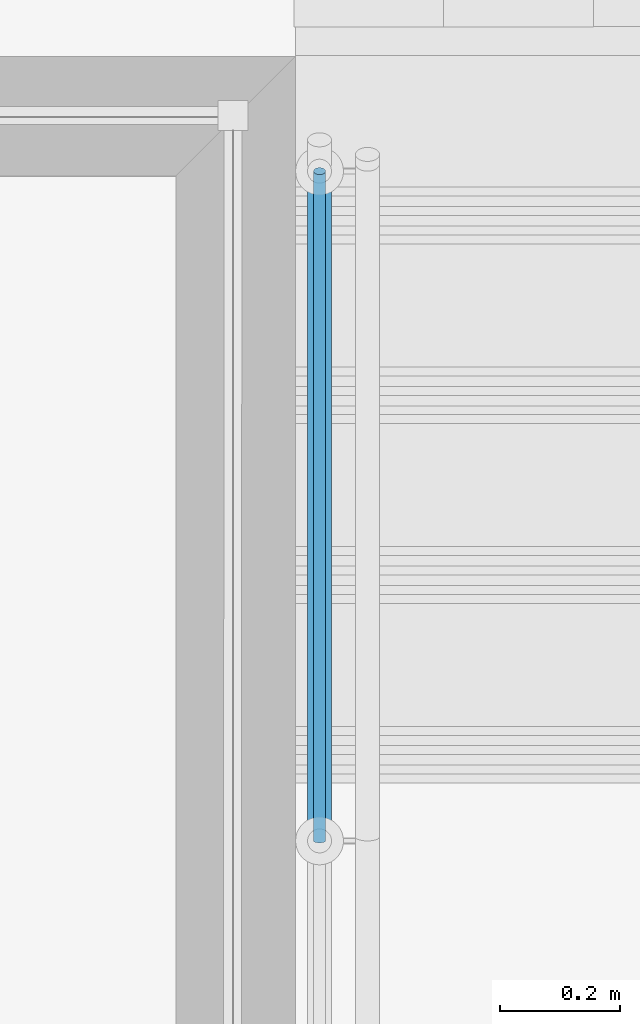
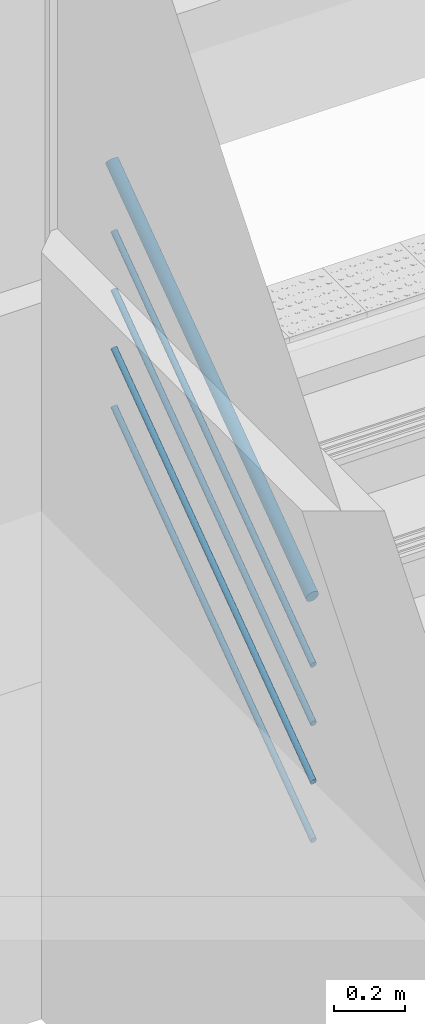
# One storey, part 62 of 237: 6 building element parts, 1 element without a shape of its own.
"""IFC2X3 building model written with IfcOpenShell, lengths in millimetres."""

from ifc_helpers import new_model, entity, si_unit, converted_unit, derived_unit, money_unit, direction, frame, origin_with_axes, place, context, subcontext, project, spatial, faceted_brep, material, type_object, element, aggregate, save


model = new_model("IFC2X3")

# Units and contexts
model_context = context("Model", 3, precision=0.01, world=origin_with_axes(), true_north=direction((0.0, 1.0)))
body_context = subcontext(model_context, "Body", "Model", "MODEL_VIEW")
ifc_project = project(units=[si_unit("LENGTHUNIT", "METRE", prefix="MILLI"), si_unit("AREAUNIT", "SQUARE_METRE"), si_unit("VOLUMEUNIT", "CUBIC_METRE"), converted_unit("PLANEANGLEUNIT", "DEGREE", entity("IfcPlaneAngleMeasure", 0.0174532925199), si_unit("PLANEANGLEUNIT", "RADIAN"), dimensions=[0, 0, 0, 0, 0, 0, 0]), money_unit("USD"), converted_unit("TIMEUNIT", "Year", entity("IfcTimeMeasure", 31556926.0), si_unit("TIMEUNIT", "SECOND"), dimensions=[0, 0, 1, 0, 0, 0, 0]), si_unit("MASSUNIT", "GRAM", prefix="KILO"), si_unit("THERMODYNAMICTEMPERATUREUNIT", "DEGREE_CELSIUS"), si_unit("LUMINOUSINTENSITYUNIT", "LUMEN"), si_unit("ENERGYUNIT", "JOULE", prefix="MEGA"), derived_unit("THERMALCONDUCTANCEUNIT", [(si_unit("POWERUNIT", "WATT"), 1), (si_unit("LENGTHUNIT", "METRE"), -1), (si_unit("THERMODYNAMICTEMPERATUREUNIT", "KELVIN"), -1)]), derived_unit("SPECIFICHEATCAPACITYUNIT", [(si_unit("ENERGYUNIT", "JOULE"), 1), (si_unit("MASSUNIT", "GRAM", prefix="KILO"), -1), (si_unit("THERMODYNAMICTEMPERATUREUNIT", "KELVIN"), -1)]), derived_unit("MASSDENSITYUNIT", [(si_unit("MASSUNIT", "GRAM", prefix="KILO"), 1), (si_unit("VOLUMEUNIT", "CUBIC_METRE"), -1)])], contexts=[model_context])

# Site, building, storey
site_placement = place(None, origin_with_axes())
site = spatial("IfcSite", under=ifc_project, at=site_placement, Name="Local", CompositionType="ELEMENT")
building_placement = place(site_placement, origin_with_axes())
building = spatial("IfcBuilding", under=site, at=building_placement, Name="Construção", CompositionType="ELEMENT")
storey_placement = place(building_placement, origin_with_axes())
storey = spatial("IfcBuildingStorey", under=building, at=storey_placement, Name="Pavimento Térreo", CompositionType="ELEMENT", Elevation=0.0)

# Railing, building element parts
railing_type = type_object("IfcRailingType", Name="Tipo de Guarda-Corpo", PredefinedType="NOTDEFINED")
railing_placement = place(storey_placement, frame((77071.0413397, 23732.4143775, -4865.39060156), z_axis=(0.0, 0.0, 1.0), x_axis=(1.0, 0.0, 0.0)))
railing = element("IfcRailing", 1, at=railing_placement, inside=storey, type_object=railing_type, Name="Guarda-Corpo - 001", PredefinedType="NOTDEFINED")
ifc_material = material(Name="Aço - Inoxidável")
building_element_part_1_placement = place(railing_placement, origin_with_axes())
building_element_part_1 = element("IfcBuildingElementPart", 2, at=building_element_part_1_placement, material=ifc_material, Name="Aço - Inoxidável", context=body_context, shape_type="Brep", body=[
    faceted_brep([(1757.91815812, -254.940737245, 2359.93461638), (1757.61431318, -256.971998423, 2362.75161015), (1757.61431319, -1379.29586583, 1553.47296355), (1757.91815813, -1378.17431672, 1550.0), (1757.61431318, -252.909476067, 2357.11762262), (1756.71201054, -250.939933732, 2354.38622179), (1755.2386662, -249.091953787, 2351.82340611), (1753.23904699, -247.421686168, 2349.50704546), (1750.77391032, -245.979881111, 2347.50752127), (1747.91815812, -244.810347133, 2345.88558808), (1744.75856099, -243.948619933, 2344.69052751), (1741.39112168, -243.420882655, 2343.95865086), (1737.91815812, -243.243170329, 2343.71219584), (1734.44519457, -243.420882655, 2343.95865086), (1731.07775526, -243.948619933, 2344.69052751), (1727.91815812, -244.810347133, 2345.88558808), (1725.06240593, -245.979881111, 2347.50752127), (1722.59726926, -247.421686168, 2349.50704546), (1720.59765005, -249.091953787, 2351.82340611), (1719.12430571, -250.939933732, 2354.38622179), (1718.22200306, -252.909476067, 2357.11762262), (1717.91815812, -254.940737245, 2359.93461638), (1718.22200306, -256.971998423, 2362.75161015), (1719.12430571, -258.941540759, 2365.48301098), (1720.59765005, -260.789520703, 2368.04582666), (1722.59726926, -262.459788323, 2370.36218731), (1725.06240593, -263.901593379, 2372.36171149), (1727.91815812, -265.071127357, 2373.98364468), (1731.07775526, -265.932854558, 2375.17870526), (1734.44519457, -266.460591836, 2375.91058191), (1737.91815812, -266.638304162, 2376.15703693), (1741.39112168, -266.460591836, 2375.91058191), (1744.75856099, -265.932854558, 2375.17870526), (1747.91815812, -265.071127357, 2373.98364468), (1750.77391032, -263.901593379, 2372.36171149), (1753.23904699, -262.459788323, 2370.36218731), (1755.2386662, -260.789520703, 2368.04582666), (1756.71201054, -258.941540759, 2365.48301098), (1756.71201054, -1380.38333724, 1556.84040287), (1755.2386662, -1381.40368868, 1560.0), (1753.23904699, -1382.32591728, 1562.85575219), (1750.77391032, -1383.1220016, 1565.32088886), (1747.91815813, -1383.76775302, 1567.32050808), (1744.75856099, -1384.24355071, 1568.79385242), (1741.39112168, -1384.53493779, 1569.69615506), (1737.91815812, -1384.63306062, 1570.0), (1734.44519457, -1384.53493779, 1569.69615506), (1731.07775526, -1384.2435507, 1568.79385242), (1727.91815813, -1383.76775301, 1567.32050808), (1725.06240593, -1383.12200159, 1565.32088886), (1722.59726926, -1382.32591726, 1562.85575219), (1720.59765005, -1381.40368866, 1560.0), (1719.12430571, -1380.38333722, 1556.84040287), (1718.22200307, -1379.29586581, 1553.47296355), (1717.91815813, -1378.1743167, 1550.0), (1718.22200307, -1377.05276758, 1546.52703645), (1719.12430571, -1375.96529618, 1543.15959713), (1720.59765005, -1374.94494474, 1540.0), (1722.59726927, -1374.02271613, 1537.14424781), (1725.06240594, -1373.22663181, 1534.67911114), (1727.91815813, -1372.58088039, 1532.67949192), (1731.07775527, -1372.10508271, 1531.20614758), (1734.44519458, -1371.81369562, 1530.30384494), (1737.91815813, -1371.71557279, 1530.0), (1741.39112169, -1371.81369563, 1530.30384494), (1744.758561, -1372.10508271, 1531.20614758), (1747.91815813, -1372.58088041, 1532.67949192), (1750.77391033, -1373.22663183, 1534.67911114), (1753.23904699, -1374.02271615, 1537.14424781), (1755.23866621, -1374.94494476, 1540.0), (1756.71201055, -1375.9652962, 1543.15959713), (1757.61431319, -1377.05276761, 1546.52703645)], [[[0, 1, 2, 3]], [[0, 4, 5, 6, 7, 8, 9, 10, 11, 12, 13, 14, 15, 16, 17, 18, 19, 20, 21, 22, 23, 24, 25, 26, 27, 28, 29, 30, 31, 32, 33, 34, 35, 36, 37, 1]], [[1, 37, 38, 2]], [[3, 2, 38, 39, 40, 41, 42, 43, 44, 45, 46, 47, 48, 49, 50, 51, 52, 53, 54, 55, 56, 57, 58, 59, 60, 61, 62, 63, 64, 65, 66, 67, 68, 69, 70, 71]], [[4, 0, 3, 71]], [[5, 4, 71, 70]], [[6, 5, 70, 69]], [[7, 6, 69, 68]], [[8, 7, 68, 67]], [[9, 8, 67, 66]], [[10, 9, 66, 65]], [[11, 10, 65, 64]], [[12, 11, 64, 63]], [[13, 12, 63, 62]], [[14, 13, 62, 61]], [[15, 14, 61, 60]], [[16, 15, 60, 59]], [[17, 16, 59, 58]], [[18, 17, 58, 57]], [[19, 18, 57, 56]], [[20, 19, 56, 55]], [[21, 20, 55, 54]], [[22, 21, 54, 53]], [[23, 22, 53, 52]], [[24, 23, 52, 51]], [[25, 24, 51, 50]], [[26, 25, 50, 49]], [[27, 26, 49, 48]], [[28, 27, 48, 47]], [[29, 28, 47, 46]], [[30, 29, 46, 45]], [[31, 30, 45, 44]], [[32, 31, 44, 43]], [[33, 32, 43, 42]], [[34, 33, 42, 41]], [[35, 34, 41, 40]], [[36, 35, 40, 39]], [[37, 36, 39, 38]]]),
])
building_element_part_2_placement = place(railing_placement, origin_with_axes())
building_element_part_2 = element("IfcBuildingElementPart", 3, at=building_element_part_2_placement, material=ifc_material, Name="Aço - Inoxidável", context=body_context, shape_type="Brep", body=[
    faceted_brep([(1747.91815812, -266.638304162, 1526.15703693), (1747.76623565, -267.653934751, 1527.56553381), (1747.76623565, -1385.19383519, 721.736481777), (1747.91815812, -1384.63306063, 720.0), (1747.76623565, -265.622673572, 1524.74854004), (1747.31508433, -264.637902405, 1523.38283963), (1746.57841216, -263.713912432, 1522.10143179), (1745.57860256, -262.878778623, 1520.94325146), (1744.34603422, -262.157876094, 1519.94348937), (1742.91815812, -261.573109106, 1519.13252278), (1741.33835956, -261.142245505, 1518.53499249), (1739.6546399, -260.878376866, 1518.16905417), (1737.91815812, -260.789520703, 1518.04582666), (1736.18167635, -260.878376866, 1518.16905417), (1734.49795669, -261.142245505, 1518.53499249), (1732.91815812, -261.573109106, 1519.13252278), (1731.49028203, -262.157876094, 1519.94348937), (1730.25771369, -262.878778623, 1520.94325146), (1729.25790409, -263.713912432, 1522.10143179), (1728.52123192, -264.637902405, 1523.38283963), (1728.07008059, -265.622673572, 1524.74854004), (1727.91815812, -266.638304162, 1526.15703693), (1728.07008059, -267.653934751, 1527.56553381), (1728.52123192, -268.638705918, 1528.93123423), (1729.25790409, -269.562695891, 1530.21264206), (1730.25771369, -270.3978297, 1531.37082239), (1731.49028203, -271.118732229, 1532.37058448), (1732.91815812, -271.703499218, 1533.18155108), (1734.49795669, -272.134362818, 1533.77908136), (1736.18167635, -272.398231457, 1534.14501969), (1737.91815812, -272.48708762, 1534.2682472), (1739.6546399, -272.398231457, 1534.14501969), (1741.33835956, -272.134362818, 1533.77908136), (1742.91815812, -271.703499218, 1533.18155108), (1744.34603422, -271.118732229, 1532.37058448), (1745.57860256, -270.3978297, 1531.37082239), (1746.57841216, -269.562695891, 1530.21264206), (1747.31508433, -268.638705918, 1528.93123423), (1747.31508433, -1385.73757089, 723.420201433), (1746.57841216, -1386.24774661, 725.0), (1745.57860255, -1386.70886091, 726.427876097), (1744.34603422, -1387.10690307, 727.660444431), (1742.91815812, -1387.42977878, 728.660254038), (1741.33835956, -1387.66767763, 729.396926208), (1739.6546399, -1387.81337117, 729.84807753), (1737.91815812, -1387.86243258, 730.0), (1736.18167635, -1387.81337117, 729.84807753), (1734.49795669, -1387.66767762, 729.396926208), (1732.91815812, -1387.42977878, 728.660254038), (1731.49028203, -1387.10690306, 727.660444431), (1730.25771369, -1386.7088609, 726.427876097), (1729.25790409, -1386.2477466, 725.0), (1728.52123192, -1385.73757088, 723.420201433), (1728.07008059, -1385.19383517, 721.736481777), (1727.91815812, -1384.63306062, 720.0), (1728.07008059, -1384.07228606, 718.263518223), (1728.52123192, -1383.52855036, 716.579798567), (1729.25790409, -1383.01837464, 715.0), (1730.25771369, -1382.55726034, 713.572123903), (1731.49028203, -1382.15921818, 712.339555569), (1732.91815813, -1381.83634247, 711.339745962), (1734.49795669, -1381.59844362, 710.603073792), (1736.18167635, -1381.45275008, 710.15192247), (1737.91815813, -1381.40368867, 710.0), (1739.6546399, -1381.45275008, 710.15192247), (1741.33835956, -1381.59844363, 710.603073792), (1742.91815813, -1381.83634247, 711.339745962), (1744.34603422, -1382.15921818, 712.339555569), (1745.57860256, -1382.55726035, 713.572123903), (1746.57841216, -1383.01837465, 715.0), (1747.31508433, -1383.52855037, 716.579798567), (1747.76623566, -1384.07228607, 718.263518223)], [[[0, 1, 2, 3]], [[0, 4, 5, 6, 7, 8, 9, 10, 11, 12, 13, 14, 15, 16, 17, 18, 19, 20, 21, 22, 23, 24, 25, 26, 27, 28, 29, 30, 31, 32, 33, 34, 35, 36, 37, 1]], [[1, 37, 38, 2]], [[3, 2, 38, 39, 40, 41, 42, 43, 44, 45, 46, 47, 48, 49, 50, 51, 52, 53, 54, 55, 56, 57, 58, 59, 60, 61, 62, 63, 64, 65, 66, 67, 68, 69, 70, 71]], [[4, 0, 3, 71]], [[5, 4, 71, 70]], [[6, 5, 70, 69]], [[7, 6, 69, 68]], [[8, 7, 68, 67]], [[9, 8, 67, 66]], [[10, 9, 66, 65]], [[11, 10, 65, 64]], [[12, 11, 64, 63]], [[13, 12, 63, 62]], [[14, 13, 62, 61]], [[15, 14, 61, 60]], [[16, 15, 60, 59]], [[17, 16, 59, 58]], [[18, 17, 58, 57]], [[19, 18, 57, 56]], [[20, 19, 56, 55]], [[21, 20, 55, 54]], [[22, 21, 54, 53]], [[23, 22, 53, 52]], [[24, 23, 52, 51]], [[25, 24, 51, 50]], [[26, 25, 50, 49]], [[27, 26, 49, 48]], [[28, 27, 48, 47]], [[29, 28, 47, 46]], [[30, 29, 46, 45]], [[31, 30, 45, 44]], [[32, 31, 44, 43]], [[33, 32, 43, 42]], [[34, 33, 42, 41]], [[35, 34, 41, 40]], [[36, 35, 40, 39]], [[37, 36, 39, 38]]]),
])
building_element_part_3_placement = place(railing_placement, origin_with_axes())
building_element_part_3 = element("IfcBuildingElementPart", 4, at=building_element_part_3_placement, material=ifc_material, Name="Aço - Inoxidável", context=body_context, shape_type="Brep", body=[
    faceted_brep([(1747.91815812, -266.638304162, 1726.15703693), (1747.76623565, -267.653934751, 1727.56553381), (1747.76623565, -1385.19383519, 921.736481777), (1747.91815812, -1384.63306063, 920.0), (1747.76623565, -265.622673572, 1724.74854004), (1747.31508433, -264.637902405, 1723.38283963), (1746.57841216, -263.713912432, 1722.10143179), (1745.57860256, -262.878778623, 1720.94325146), (1744.34603422, -262.157876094, 1719.94348937), (1742.91815812, -261.573109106, 1719.13252278), (1741.33835956, -261.142245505, 1718.53499249), (1739.6546399, -260.878376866, 1718.16905417), (1737.91815812, -260.789520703, 1718.04582666), (1736.18167635, -260.878376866, 1718.16905417), (1734.49795669, -261.142245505, 1718.53499249), (1732.91815812, -261.573109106, 1719.13252278), (1731.49028203, -262.157876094, 1719.94348937), (1730.25771369, -262.878778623, 1720.94325146), (1729.25790409, -263.713912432, 1722.10143179), (1728.52123192, -264.637902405, 1723.38283963), (1728.07008059, -265.622673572, 1724.74854004), (1727.91815812, -266.638304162, 1726.15703693), (1728.07008059, -267.653934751, 1727.56553381), (1728.52123192, -268.638705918, 1728.93123423), (1729.25790409, -269.562695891, 1730.21264206), (1730.25771369, -270.3978297, 1731.37082239), (1731.49028203, -271.118732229, 1732.37058448), (1732.91815812, -271.703499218, 1733.18155108), (1734.49795669, -272.134362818, 1733.77908136), (1736.18167635, -272.398231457, 1734.14501969), (1737.91815812, -272.48708762, 1734.2682472), (1739.6546399, -272.398231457, 1734.14501969), (1741.33835956, -272.134362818, 1733.77908136), (1742.91815812, -271.703499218, 1733.18155108), (1744.34603422, -271.118732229, 1732.37058448), (1745.57860256, -270.3978297, 1731.37082239), (1746.57841216, -269.562695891, 1730.21264206), (1747.31508433, -268.638705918, 1728.93123423), (1747.31508433, -1385.73757089, 923.420201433), (1746.57841216, -1386.24774661, 925.0), (1745.57860255, -1386.70886091, 926.427876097), (1744.34603422, -1387.10690307, 927.660444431), (1742.91815812, -1387.42977878, 928.660254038), (1741.33835956, -1387.66767763, 929.396926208), (1739.6546399, -1387.81337117, 929.84807753), (1737.91815812, -1387.86243258, 930.0), (1736.18167635, -1387.81337117, 929.84807753), (1734.49795669, -1387.66767762, 929.396926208), (1732.91815812, -1387.42977878, 928.660254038), (1731.49028203, -1387.10690306, 927.660444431), (1730.25771369, -1386.7088609, 926.427876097), (1729.25790409, -1386.2477466, 925.0), (1728.52123192, -1385.73757088, 923.420201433), (1728.07008059, -1385.19383517, 921.736481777), (1727.91815812, -1384.63306062, 920.0), (1728.07008059, -1384.07228606, 918.263518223), (1728.52123192, -1383.52855036, 916.579798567), (1729.25790409, -1383.01837464, 915.0), (1730.25771369, -1382.55726034, 913.572123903), (1731.49028203, -1382.15921818, 912.339555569), (1732.91815813, -1381.83634247, 911.339745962), (1734.49795669, -1381.59844362, 910.603073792), (1736.18167635, -1381.45275008, 910.15192247), (1737.91815813, -1381.40368867, 910.0), (1739.6546399, -1381.45275008, 910.15192247), (1741.33835956, -1381.59844363, 910.603073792), (1742.91815813, -1381.83634247, 911.339745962), (1744.34603422, -1382.15921818, 912.339555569), (1745.57860256, -1382.55726035, 913.572123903), (1746.57841216, -1383.01837465, 915.0), (1747.31508433, -1383.52855037, 916.579798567), (1747.76623566, -1384.07228607, 918.263518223)], [[[0, 1, 2, 3]], [[0, 4, 5, 6, 7, 8, 9, 10, 11, 12, 13, 14, 15, 16, 17, 18, 19, 20, 21, 22, 23, 24, 25, 26, 27, 28, 29, 30, 31, 32, 33, 34, 35, 36, 37, 1]], [[1, 37, 38, 2]], [[3, 2, 38, 39, 40, 41, 42, 43, 44, 45, 46, 47, 48, 49, 50, 51, 52, 53, 54, 55, 56, 57, 58, 59, 60, 61, 62, 63, 64, 65, 66, 67, 68, 69, 70, 71]], [[4, 0, 3, 71]], [[5, 4, 71, 70]], [[6, 5, 70, 69]], [[7, 6, 69, 68]], [[8, 7, 68, 67]], [[9, 8, 67, 66]], [[10, 9, 66, 65]], [[11, 10, 65, 64]], [[12, 11, 64, 63]], [[13, 12, 63, 62]], [[14, 13, 62, 61]], [[15, 14, 61, 60]], [[16, 15, 60, 59]], [[17, 16, 59, 58]], [[18, 17, 58, 57]], [[19, 18, 57, 56]], [[20, 19, 56, 55]], [[21, 20, 55, 54]], [[22, 21, 54, 53]], [[23, 22, 53, 52]], [[24, 23, 52, 51]], [[25, 24, 51, 50]], [[26, 25, 50, 49]], [[27, 26, 49, 48]], [[28, 27, 48, 47]], [[29, 28, 47, 46]], [[30, 29, 46, 45]], [[31, 30, 45, 44]], [[32, 31, 44, 43]], [[33, 32, 43, 42]], [[34, 33, 42, 41]], [[35, 34, 41, 40]], [[36, 35, 40, 39]], [[37, 36, 39, 38]]]),
])
building_element_part_4_placement = place(railing_placement, origin_with_axes())
building_element_part_4 = element("IfcBuildingElementPart", 5, at=building_element_part_4_placement, material=ifc_material, Name="Aço - Inoxidável", context=body_context, shape_type="Brep", body=[
    faceted_brep([(1747.91815812, -266.638304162, 1726.15703693), (1747.76623565, -267.653934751, 1727.56553381), (1747.76623565, -1385.19383519, 921.736481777), (1747.91815812, -1384.63306063, 920.0), (1747.76623565, -265.622673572, 1724.74854004), (1747.31508433, -264.637902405, 1723.38283963), (1746.57841216, -263.713912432, 1722.10143179), (1745.57860256, -262.878778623, 1720.94325146), (1744.34603422, -262.157876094, 1719.94348937), (1742.91815812, -261.573109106, 1719.13252278), (1741.33835956, -261.142245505, 1718.53499249), (1739.6546399, -260.878376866, 1718.16905417), (1737.91815812, -260.789520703, 1718.04582666), (1736.18167635, -260.878376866, 1718.16905417), (1734.49795669, -261.142245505, 1718.53499249), (1732.91815812, -261.573109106, 1719.13252278), (1731.49028203, -262.157876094, 1719.94348937), (1730.25771369, -262.878778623, 1720.94325146), (1729.25790409, -263.713912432, 1722.10143179), (1728.52123192, -264.637902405, 1723.38283963), (1728.07008059, -265.622673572, 1724.74854004), (1727.91815812, -266.638304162, 1726.15703693), (1728.07008059, -267.653934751, 1727.56553381), (1728.52123192, -268.638705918, 1728.93123423), (1729.25790409, -269.562695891, 1730.21264206), (1730.25771369, -270.3978297, 1731.37082239), (1731.49028203, -271.118732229, 1732.37058448), (1732.91815812, -271.703499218, 1733.18155108), (1734.49795669, -272.134362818, 1733.77908136), (1736.18167635, -272.398231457, 1734.14501969), (1737.91815812, -272.48708762, 1734.2682472), (1739.6546399, -272.398231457, 1734.14501969), (1741.33835956, -272.134362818, 1733.77908136), (1742.91815812, -271.703499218, 1733.18155108), (1744.34603422, -271.118732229, 1732.37058448), (1745.57860256, -270.3978297, 1731.37082239), (1746.57841216, -269.562695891, 1730.21264206), (1747.31508433, -268.638705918, 1728.93123423), (1747.31508433, -1385.73757089, 923.420201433), (1746.57841216, -1386.24774661, 925.0), (1745.57860255, -1386.70886091, 926.427876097), (1744.34603422, -1387.10690307, 927.660444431), (1742.91815812, -1387.42977878, 928.660254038), (1741.33835956, -1387.66767763, 929.396926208), (1739.6546399, -1387.81337117, 929.84807753), (1737.91815812, -1387.86243258, 930.0), (1736.18167635, -1387.81337117, 929.84807753), (1734.49795669, -1387.66767762, 929.396926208), (1732.91815812, -1387.42977878, 928.660254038), (1731.49028203, -1387.10690306, 927.660444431), (1730.25771369, -1386.7088609, 926.427876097), (1729.25790409, -1386.2477466, 925.0), (1728.52123192, -1385.73757088, 923.420201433), (1728.07008059, -1385.19383517, 921.736481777), (1727.91815812, -1384.63306062, 920.0), (1728.07008059, -1384.07228606, 918.263518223), (1728.52123192, -1383.52855036, 916.579798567), (1729.25790409, -1383.01837464, 915.0), (1730.25771369, -1382.55726034, 913.572123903), (1731.49028203, -1382.15921818, 912.339555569), (1732.91815813, -1381.83634247, 911.339745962), (1734.49795669, -1381.59844362, 910.603073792), (1736.18167635, -1381.45275008, 910.15192247), (1737.91815813, -1381.40368867, 910.0), (1739.6546399, -1381.45275008, 910.15192247), (1741.33835956, -1381.59844363, 910.603073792), (1742.91815813, -1381.83634247, 911.339745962), (1744.34603422, -1382.15921818, 912.339555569), (1745.57860256, -1382.55726035, 913.572123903), (1746.57841216, -1383.01837465, 915.0), (1747.31508433, -1383.52855037, 916.579798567), (1747.76623566, -1384.07228607, 918.263518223)], [[[0, 1, 2, 3]], [[0, 4, 5, 6, 7, 8, 9, 10, 11, 12, 13, 14, 15, 16, 17, 18, 19, 20, 21, 22, 23, 24, 25, 26, 27, 28, 29, 30, 31, 32, 33, 34, 35, 36, 37, 1]], [[1, 37, 38, 2]], [[3, 2, 38, 39, 40, 41, 42, 43, 44, 45, 46, 47, 48, 49, 50, 51, 52, 53, 54, 55, 56, 57, 58, 59, 60, 61, 62, 63, 64, 65, 66, 67, 68, 69, 70, 71]], [[4, 0, 3, 71]], [[5, 4, 71, 70]], [[6, 5, 70, 69]], [[7, 6, 69, 68]], [[8, 7, 68, 67]], [[9, 8, 67, 66]], [[10, 9, 66, 65]], [[11, 10, 65, 64]], [[12, 11, 64, 63]], [[13, 12, 63, 62]], [[14, 13, 62, 61]], [[15, 14, 61, 60]], [[16, 15, 60, 59]], [[17, 16, 59, 58]], [[18, 17, 58, 57]], [[19, 18, 57, 56]], [[20, 19, 56, 55]], [[21, 20, 55, 54]], [[22, 21, 54, 53]], [[23, 22, 53, 52]], [[24, 23, 52, 51]], [[25, 24, 51, 50]], [[26, 25, 50, 49]], [[27, 26, 49, 48]], [[28, 27, 48, 47]], [[29, 28, 47, 46]], [[30, 29, 46, 45]], [[31, 30, 45, 44]], [[32, 31, 44, 43]], [[33, 32, 43, 42]], [[34, 33, 42, 41]], [[35, 34, 41, 40]], [[36, 35, 40, 39]], [[37, 36, 39, 38]]]),
])
building_element_part_5_placement = place(railing_placement, origin_with_axes())
building_element_part_5 = element("IfcBuildingElementPart", 6, at=building_element_part_5_placement, material=ifc_material, Name="Aço - Inoxidável", context=body_context, shape_type="Brep", body=[
    faceted_brep([(1747.91815812, -266.638304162, 1926.15703693), (1747.76623565, -267.653934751, 1927.56553381), (1747.76623565, -1385.19383519, 1121.73648178), (1747.91815812, -1384.63306063, 1120.0), (1747.76623565, -265.622673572, 1924.74854004), (1747.31508433, -264.637902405, 1923.38283963), (1746.57841216, -263.713912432, 1922.10143179), (1745.57860256, -262.878778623, 1920.94325146), (1744.34603422, -262.157876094, 1919.94348937), (1742.91815812, -261.573109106, 1919.13252278), (1741.33835956, -261.142245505, 1918.53499249), (1739.6546399, -260.878376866, 1918.16905417), (1737.91815812, -260.789520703, 1918.04582666), (1736.18167635, -260.878376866, 1918.16905417), (1734.49795669, -261.142245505, 1918.53499249), (1732.91815812, -261.573109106, 1919.13252278), (1731.49028203, -262.157876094, 1919.94348937), (1730.25771369, -262.878778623, 1920.94325146), (1729.25790409, -263.713912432, 1922.10143179), (1728.52123192, -264.637902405, 1923.38283963), (1728.07008059, -265.622673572, 1924.74854004), (1727.91815812, -266.638304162, 1926.15703693), (1728.07008059, -267.653934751, 1927.56553381), (1728.52123192, -268.638705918, 1928.93123423), (1729.25790409, -269.562695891, 1930.21264206), (1730.25771369, -270.3978297, 1931.37082239), (1731.49028203, -271.118732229, 1932.37058448), (1732.91815812, -271.703499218, 1933.18155108), (1734.49795669, -272.134362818, 1933.77908136), (1736.18167635, -272.398231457, 1934.14501969), (1737.91815812, -272.48708762, 1934.2682472), (1739.6546399, -272.398231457, 1934.14501969), (1741.33835956, -272.134362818, 1933.77908136), (1742.91815812, -271.703499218, 1933.18155108), (1744.34603422, -271.118732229, 1932.37058448), (1745.57860256, -270.3978297, 1931.37082239), (1746.57841216, -269.562695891, 1930.21264206), (1747.31508433, -268.638705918, 1928.93123423), (1747.31508433, -1385.73757089, 1123.42020143), (1746.57841216, -1386.24774661, 1125.0), (1745.57860255, -1386.70886091, 1126.4278761), (1744.34603422, -1387.10690307, 1127.66044443), (1742.91815812, -1387.42977878, 1128.66025404), (1741.33835956, -1387.66767763, 1129.39692621), (1739.6546399, -1387.81337117, 1129.84807753), (1737.91815812, -1387.86243258, 1130.0), (1736.18167635, -1387.81337117, 1129.84807753), (1734.49795669, -1387.66767762, 1129.39692621), (1732.91815812, -1387.42977878, 1128.66025404), (1731.49028203, -1387.10690306, 1127.66044443), (1730.25771369, -1386.7088609, 1126.4278761), (1729.25790409, -1386.2477466, 1125.0), (1728.52123192, -1385.73757088, 1123.42020143), (1728.07008059, -1385.19383517, 1121.73648178), (1727.91815812, -1384.63306062, 1120.0), (1728.07008059, -1384.07228606, 1118.26351822), (1728.52123192, -1383.52855036, 1116.57979857), (1729.25790409, -1383.01837464, 1115.0), (1730.25771369, -1382.55726034, 1113.5721239), (1731.49028203, -1382.15921818, 1112.33955557), (1732.91815813, -1381.83634247, 1111.33974596), (1734.49795669, -1381.59844362, 1110.60307379), (1736.18167635, -1381.45275008, 1110.15192247), (1737.91815813, -1381.40368867, 1110.0), (1739.6546399, -1381.45275008, 1110.15192247), (1741.33835956, -1381.59844363, 1110.60307379), (1742.91815813, -1381.83634247, 1111.33974596), (1744.34603422, -1382.15921818, 1112.33955557), (1745.57860256, -1382.55726035, 1113.5721239), (1746.57841216, -1383.01837465, 1115.0), (1747.31508433, -1383.52855037, 1116.57979857), (1747.76623566, -1384.07228607, 1118.26351822)], [[[0, 1, 2, 3]], [[0, 4, 5, 6, 7, 8, 9, 10, 11, 12, 13, 14, 15, 16, 17, 18, 19, 20, 21, 22, 23, 24, 25, 26, 27, 28, 29, 30, 31, 32, 33, 34, 35, 36, 37, 1]], [[1, 37, 38, 2]], [[3, 2, 38, 39, 40, 41, 42, 43, 44, 45, 46, 47, 48, 49, 50, 51, 52, 53, 54, 55, 56, 57, 58, 59, 60, 61, 62, 63, 64, 65, 66, 67, 68, 69, 70, 71]], [[4, 0, 3, 71]], [[5, 4, 71, 70]], [[6, 5, 70, 69]], [[7, 6, 69, 68]], [[8, 7, 68, 67]], [[9, 8, 67, 66]], [[10, 9, 66, 65]], [[11, 10, 65, 64]], [[12, 11, 64, 63]], [[13, 12, 63, 62]], [[14, 13, 62, 61]], [[15, 14, 61, 60]], [[16, 15, 60, 59]], [[17, 16, 59, 58]], [[18, 17, 58, 57]], [[19, 18, 57, 56]], [[20, 19, 56, 55]], [[21, 20, 55, 54]], [[22, 21, 54, 53]], [[23, 22, 53, 52]], [[24, 23, 52, 51]], [[25, 24, 51, 50]], [[26, 25, 50, 49]], [[27, 26, 49, 48]], [[28, 27, 48, 47]], [[29, 28, 47, 46]], [[30, 29, 46, 45]], [[31, 30, 45, 44]], [[32, 31, 44, 43]], [[33, 32, 43, 42]], [[34, 33, 42, 41]], [[35, 34, 41, 40]], [[36, 35, 40, 39]], [[37, 36, 39, 38]]]),
])
building_element_part_6_placement = place(railing_placement, origin_with_axes())
building_element_part_6 = element("IfcBuildingElementPart", 7, at=building_element_part_6_placement, material=ifc_material, Name="Aço - Inoxidável", context=body_context, shape_type="Brep", body=[
    faceted_brep([(1747.91815812, -266.638304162, 2126.15703693), (1747.76623565, -267.653934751, 2127.56553381), (1747.76623565, -1385.19383519, 1321.73648178), (1747.91815812, -1384.63306063, 1320.0), (1747.76623565, -265.622673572, 2124.74854004), (1747.31508433, -264.637902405, 2123.38283963), (1746.57841216, -263.713912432, 2122.10143179), (1745.57860256, -262.878778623, 2120.94325146), (1744.34603422, -262.157876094, 2119.94348937), (1742.91815812, -261.573109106, 2119.13252278), (1741.33835956, -261.142245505, 2118.53499249), (1739.6546399, -260.878376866, 2118.16905417), (1737.91815812, -260.789520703, 2118.04582666), (1736.18167635, -260.878376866, 2118.16905417), (1734.49795669, -261.142245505, 2118.53499249), (1732.91815812, -261.573109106, 2119.13252278), (1731.49028203, -262.157876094, 2119.94348937), (1730.25771369, -262.878778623, 2120.94325146), (1729.25790409, -263.713912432, 2122.10143179), (1728.52123192, -264.637902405, 2123.38283963), (1728.07008059, -265.622673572, 2124.74854004), (1727.91815812, -266.638304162, 2126.15703693), (1728.07008059, -267.653934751, 2127.56553381), (1728.52123192, -268.638705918, 2128.93123423), (1729.25790409, -269.562695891, 2130.21264206), (1730.25771369, -270.3978297, 2131.37082239), (1731.49028203, -271.118732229, 2132.37058448), (1732.91815812, -271.703499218, 2133.18155108), (1734.49795669, -272.134362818, 2133.77908136), (1736.18167635, -272.398231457, 2134.14501969), (1737.91815812, -272.48708762, 2134.2682472), (1739.6546399, -272.398231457, 2134.14501969), (1741.33835956, -272.134362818, 2133.77908136), (1742.91815812, -271.703499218, 2133.18155108), (1744.34603422, -271.118732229, 2132.37058448), (1745.57860256, -270.3978297, 2131.37082239), (1746.57841216, -269.562695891, 2130.21264206), (1747.31508433, -268.638705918, 2128.93123423), (1747.31508433, -1385.73757089, 1323.42020143), (1746.57841216, -1386.24774661, 1325.0), (1745.57860255, -1386.70886091, 1326.4278761), (1744.34603422, -1387.10690307, 1327.66044443), (1742.91815812, -1387.42977878, 1328.66025404), (1741.33835956, -1387.66767763, 1329.39692621), (1739.6546399, -1387.81337117, 1329.84807753), (1737.91815812, -1387.86243258, 1330.0), (1736.18167635, -1387.81337117, 1329.84807753), (1734.49795669, -1387.66767762, 1329.39692621), (1732.91815812, -1387.42977878, 1328.66025404), (1731.49028203, -1387.10690306, 1327.66044443), (1730.25771369, -1386.7088609, 1326.4278761), (1729.25790409, -1386.2477466, 1325.0), (1728.52123192, -1385.73757088, 1323.42020143), (1728.07008059, -1385.19383517, 1321.73648178), (1727.91815812, -1384.63306062, 1320.0), (1728.07008059, -1384.07228606, 1318.26351822), (1728.52123192, -1383.52855036, 1316.57979857), (1729.25790409, -1383.01837464, 1315.0), (1730.25771369, -1382.55726034, 1313.5721239), (1731.49028203, -1382.15921818, 1312.33955557), (1732.91815813, -1381.83634247, 1311.33974596), (1734.49795669, -1381.59844362, 1310.60307379), (1736.18167635, -1381.45275008, 1310.15192247), (1737.91815813, -1381.40368867, 1310.0), (1739.6546399, -1381.45275008, 1310.15192247), (1741.33835956, -1381.59844363, 1310.60307379), (1742.91815813, -1381.83634247, 1311.33974596), (1744.34603422, -1382.15921818, 1312.33955557), (1745.57860256, -1382.55726035, 1313.5721239), (1746.57841216, -1383.01837465, 1315.0), (1747.31508433, -1383.52855037, 1316.57979857), (1747.76623566, -1384.07228607, 1318.26351822)], [[[0, 1, 2, 3]], [[0, 4, 5, 6, 7, 8, 9, 10, 11, 12, 13, 14, 15, 16, 17, 18, 19, 20, 21, 22, 23, 24, 25, 26, 27, 28, 29, 30, 31, 32, 33, 34, 35, 36, 37, 1]], [[1, 37, 38, 2]], [[3, 2, 38, 39, 40, 41, 42, 43, 44, 45, 46, 47, 48, 49, 50, 51, 52, 53, 54, 55, 56, 57, 58, 59, 60, 61, 62, 63, 64, 65, 66, 67, 68, 69, 70, 71]], [[4, 0, 3, 71]], [[5, 4, 71, 70]], [[6, 5, 70, 69]], [[7, 6, 69, 68]], [[8, 7, 68, 67]], [[9, 8, 67, 66]], [[10, 9, 66, 65]], [[11, 10, 65, 64]], [[12, 11, 64, 63]], [[13, 12, 63, 62]], [[14, 13, 62, 61]], [[15, 14, 61, 60]], [[16, 15, 60, 59]], [[17, 16, 59, 58]], [[18, 17, 58, 57]], [[19, 18, 57, 56]], [[20, 19, 56, 55]], [[21, 20, 55, 54]], [[22, 21, 54, 53]], [[23, 22, 53, 52]], [[24, 23, 52, 51]], [[25, 24, 51, 50]], [[26, 25, 50, 49]], [[27, 26, 49, 48]], [[28, 27, 48, 47]], [[29, 28, 47, 46]], [[30, 29, 46, 45]], [[31, 30, 45, 44]], [[32, 31, 44, 43]], [[33, 32, 43, 42]], [[34, 33, 42, 41]], [[35, 34, 41, 40]], [[36, 35, 40, 39]], [[37, 36, 39, 38]]]),
])
aggregate(railing, [building_element_part_1, building_element_part_2, building_element_part_3, building_element_part_4, building_element_part_5, building_element_part_6])

save(model, "model.ifc")
